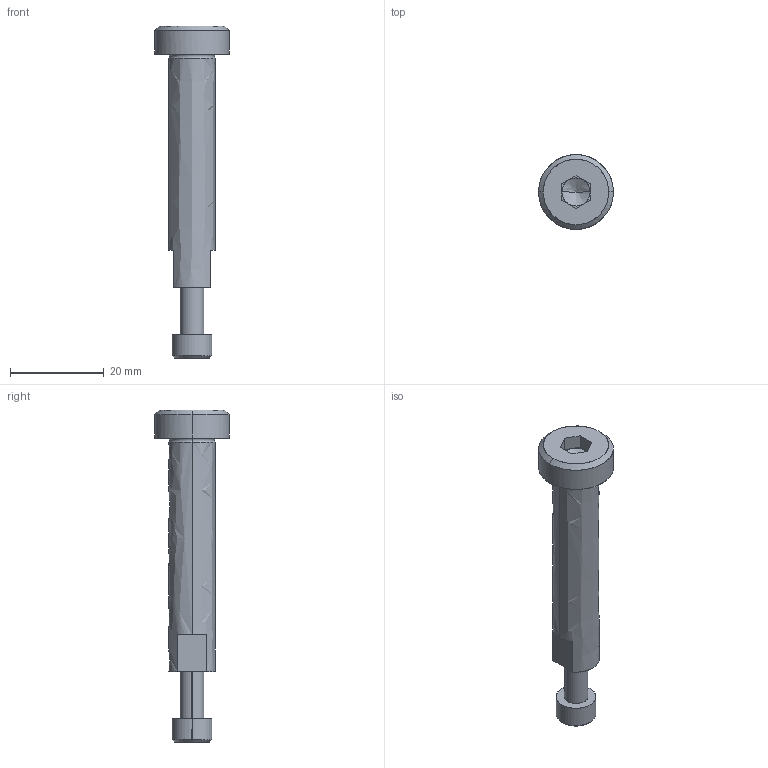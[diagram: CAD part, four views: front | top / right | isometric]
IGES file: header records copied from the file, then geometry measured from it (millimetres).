
Global section: file name: E:\UnigraphicsGraphicData\MISUMI_PRESS-PARTS\IGES\3d_sbt10-50_05057_r00.igs; native system: NX V5.0; preprocessor: UGS NX IGES V5.0; author: MISUMI; date: 20110105.162432; units: millimetre
Bounding box: 16 x 16 x 71 mm (x, y, z)
Surface area: 3231.6 mm2 (no closed solid volume)
Topology: 0 solids, 0 shells, 56 faces, 300 edges, 296 vertices
Faces by surface type: bspline 56
